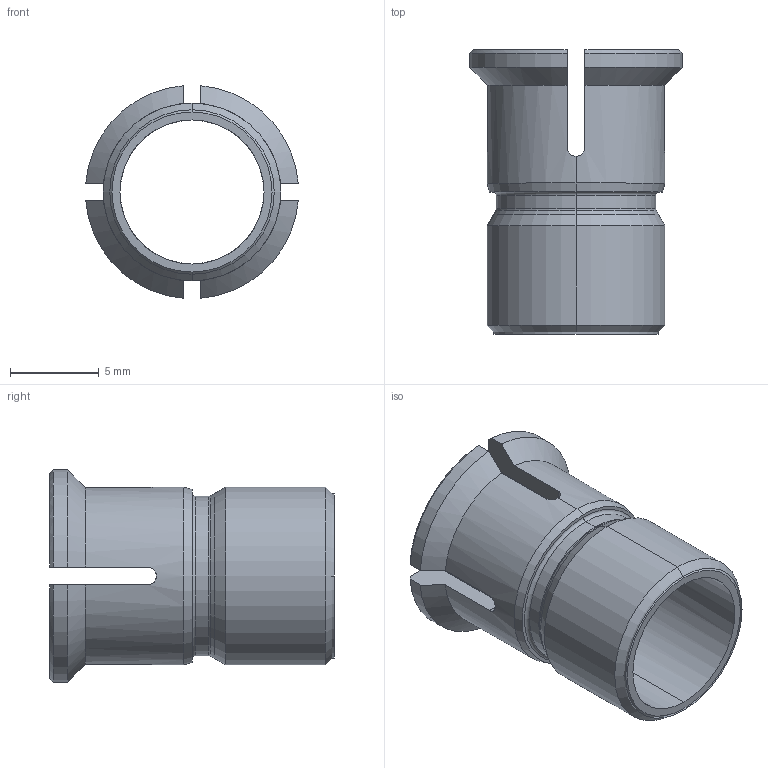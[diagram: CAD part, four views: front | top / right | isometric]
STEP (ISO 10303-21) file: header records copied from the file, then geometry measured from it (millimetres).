
FILE_DESCRIPTION((''),'2;1');
FILE_NAME('0000346769_PRT','2021-06-16T07:39:50',('pdmservice'),(''),'CREO PARAMETRIC BY PTC INC, 2018420','CREO PARAMETRIC BY PTC INC, 2018420','');
FILE_SCHEMA(('AUTOMOTIVE_DESIGN { 1 0 10303 214 1 1 1 1 }'));
Length unit declared in the file: millimetre
Products named in the file (1): 0000346769_PRT
Bounding box: 11.96 x 16 x 11.96 mm (x, y, z)
Volume: 425.6 mm3; surface area: 1211.7 mm2
Topology: 1 solids, 2 shells, 54 faces, 144 edges, 92 vertices
Faces by surface type: cylinder 18, cone 18, plane 14, torus 4
Entity records: 3046 total; most frequent: CARTESIAN_POINT 567, ORIENTED_EDGE 284, DIRECTION 270, PRESENTATION_STYLE_ASSIGNMENT 146, STYLED_ITEM 146, CURVE_STYLE 144, EDGE_CURVE 144, PROPERTY_DEFINITION 117
